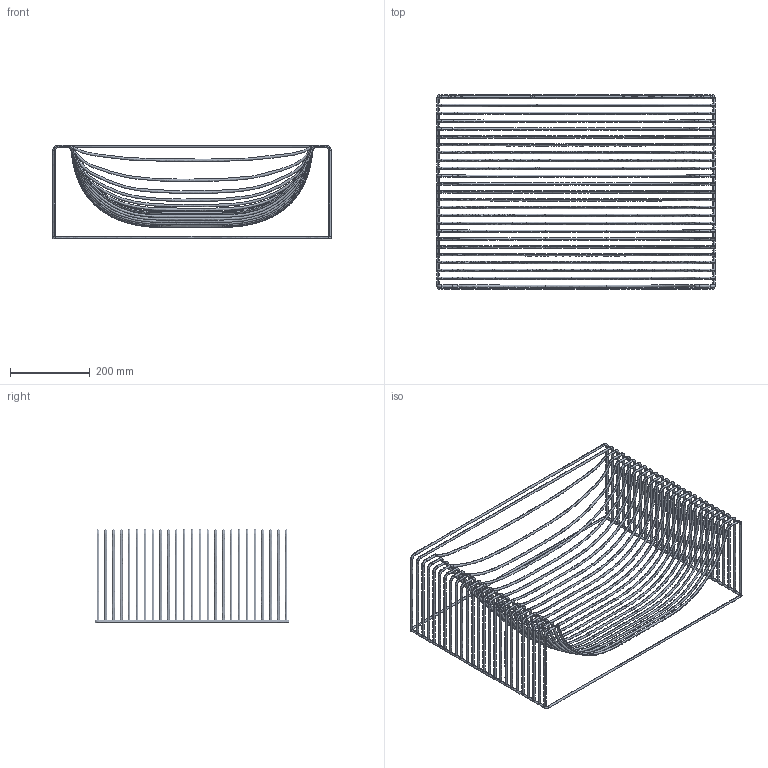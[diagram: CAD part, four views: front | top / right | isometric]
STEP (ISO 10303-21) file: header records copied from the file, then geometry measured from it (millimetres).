
FILE_DESCRIPTION(/* description */ (''),/* implementation_level */ '2;1');
FILE_NAME(/* name */ 'CUCCIA~1',/* time_stamp */ '2020-06-25T14:46:41+02:00',/* author */ (''),/* organization */ (''),/* preprocessor_version */ 'ST-DEVELOPER v16.5',/* originating_system */ '',/* authorisation */ '');
FILE_SCHEMA (('AUTOMOTIVE_DESIGN'));
Length unit declared in the file: millimetre
Products named in the file (1): Document
Bounding box: 700 x 490 x 235 mm (x, y, z)
Volume: 66499.2 mm3; surface area: 654236.9 mm2
Topology: 1 solids, 26 shells, 474 faces, 998 edges, 524 vertices
Faces by surface type: bspline 474
Entity records: 49778 total; most frequent: CARTESIAN_POINT 44783, ORIENTED_EDGE 1896, EDGE_CURVE 998, VERTEX_POINT 524, ADVANCED_FACE 474, FACE_OUTER_BOUND 474, EDGE_LOOP 474, B_SPLINE_CURVE_WITH_KNOTS 50
